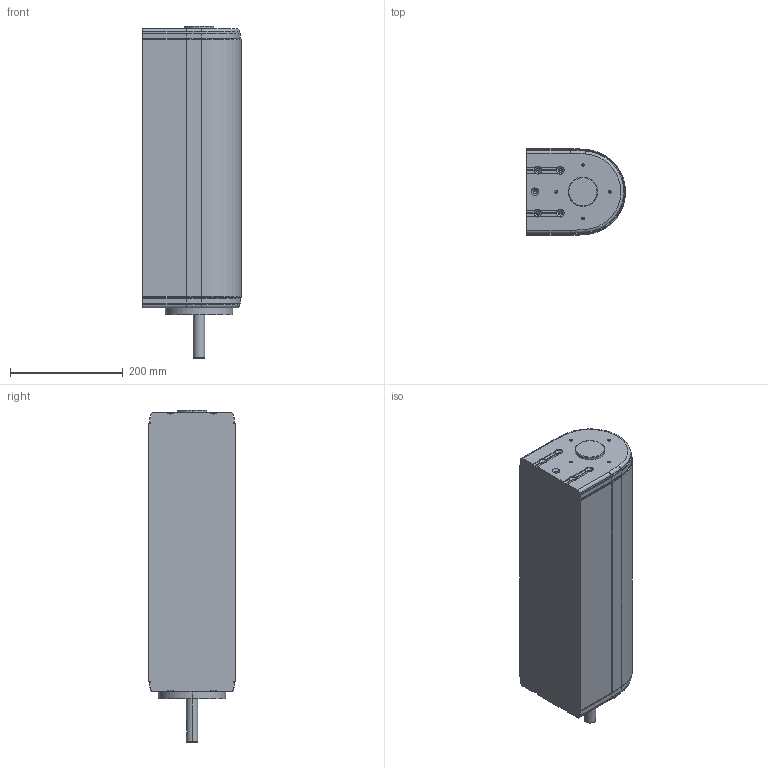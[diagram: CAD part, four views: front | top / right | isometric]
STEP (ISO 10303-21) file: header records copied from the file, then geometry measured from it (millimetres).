
FILE_DESCRIPTION (( 'STEP AP214' ), '1' );
FILE_NAME ('FABER - F2 1800 MDG20 GP.STEP', '2017-04-05T11:57:24', ( '' ), ( '' ), 'SwSTEP 2.0', 'SolidWorks 2016', '' );
FILE_SCHEMA (( 'AUTOMOTIVE_DESIGN' ));
Length unit declared in the file: millimetre
Products named in the file (1): FABER - F2 1800 MDG20 GP
Bounding box: 175.3 x 153.4 x 588 mm (x, y, z)
Volume: 12032058.5 mm3; surface area: 378289.2 mm2
Topology: 2 solids, 2 shells, 351 faces, 869 edges, 502 vertices
Faces by surface type: plane 139, cylinder 124, cone 74, torus 14
Entity records: 11661 total; most frequent: CARTESIAN_POINT 1984, DIRECTION 1779, ORIENTED_EDGE 1666, EDGE_CURVE 833, AXIS2_PLACEMENT_3D 675, VERTEX_POINT 502, VECTOR 429, LINE 429
